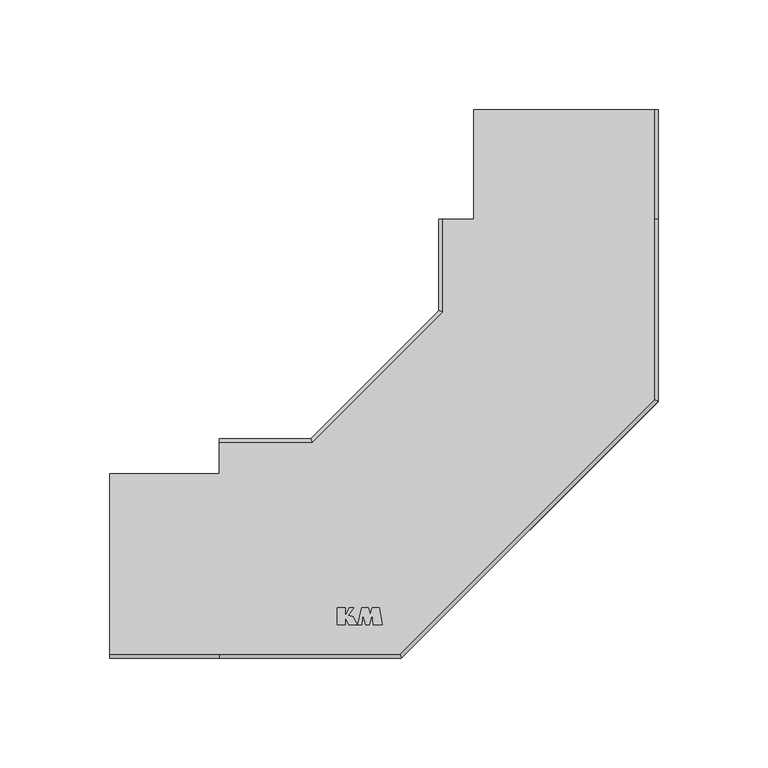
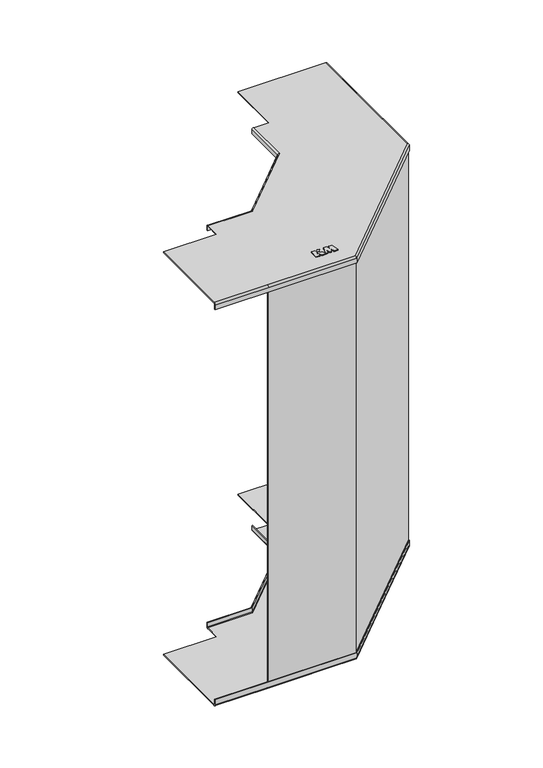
"""IFC4 building model written with IfcOpenShell, lengths in millimetres: cable carrier fitting geometry, КМ Профиль Угол вертикальный внутренний NL90 : Внутренний вертикальный угол NL90."""

import ifcopenshell
import ifcopenshell.guid

model = None  # the IFC model being written
_history = None  # IfcOwnerHistory: only IFC2X3 demands one
_inside = {}  # id of a spatial element -> (the spatial element, [elements in it])
_under = {}  # id of a project, library or spatial element -> (it, [spatial elements below it])
_declared = {}  # id of a project -> (the project, [libraries it declares])
_typed = {}  # id of a type object -> (the type object, [elements of that type])
_made_of = {}  # id of a material, layer set ... -> (it, [elements and type objects made of it])


def new_model(schema):
    """Start an empty IFC model of exactly this schema.

    Asked for "IFC4X3", IfcOpenShell would pick the latest addendum, in which some entities
    have other attributes; the version numbers below select the first issue.
    IFC2X3 requires an IfcOwnerHistory on every rooted entity: one is made here for all.
    """
    global model, _history
    if schema == "IFC4X3":
        model = ifcopenshell.file(schema_version=(4, 3, 0, 0))
    else:
        model = ifcopenshell.file(schema=schema)
    _inside.clear()
    _under.clear()
    _declared.clear()
    _typed.clear()
    _made_of.clear()
    _history = None
    if model.schema == "IFC2X3":
        org = make("IfcOrganization", Name="unknown")
        user = make(
            "IfcPersonAndOrganization",
            ThePerson=make("IfcPerson", FamilyName="unknown"),
            TheOrganization=org,
        )
        app = make(
            "IfcApplication",
            ApplicationDeveloper=org,
            Version="unknown",
            ApplicationFullName="unknown",
            ApplicationIdentifier="unknown",
        )
        _history = make(
            "IfcOwnerHistory",
            OwningUser=user,
            OwningApplication=app,
            ChangeAction="ADDED",
            CreationDate=0,
        )
    return model


def make(cls, **values):
    """One entity of the class cls with the attributes given. An attribute that is None is left unset."""
    return model.create_entity(
        cls, **{name: value for name, value in values.items() if value is not None}
    )


def rooted(cls, **values):
    """An entity with a GlobalId (a new one), such as an element, a storey or a relation."""
    return make(cls, GlobalId=ifcopenshell.guid.new(), OwnerHistory=_history, **values)


def si_unit(unit_type, name, prefix=None):
    """IfcSIUnit, for example si_unit("LENGTHUNIT", "METRE", prefix="MILLI")."""
    return make("IfcSIUnit", UnitType=unit_type, Prefix=prefix, Name=name)


def assignment(units):
    """IfcUnitAssignment: the units of a project."""
    return None if units is None else make("IfcUnitAssignment", Units=units)


def point(xyz):
    """IfcCartesianPoint."""
    return None if xyz is None else make("IfcCartesianPoint", Coordinates=xyz)


def direction(xyz):
    """IfcDirection."""
    return None if xyz is None else make("IfcDirection", DirectionRatios=xyz)


def frame(location, z_axis=None, x_axis=None):
    """IfcAxis2Placement3D, a coordinate frame: its origin and axes. An axis left out is left unset."""
    return make(
        "IfcAxis2Placement3D",
        Location=point(location),
        Axis=direction(z_axis),
        RefDirection=direction(x_axis),
    )


def origin():
    """The frame at (0, 0, 0) with its axes left unset."""
    return frame((0.0, 0.0, 0.0))


def place(relative_to, where):
    """IfcLocalPlacement: puts the frame where relative to a parent placement (None: the world)."""
    return make(
        "IfcLocalPlacement", PlacementRelTo=relative_to, RelativePlacement=where
    )


def context(
    kind, dimensions, precision=None, world=None, true_north=None, identifier=None
):
    """IfcGeometricRepresentationContext, for example the 3D "Model" context."""
    return make(
        "IfcGeometricRepresentationContext",
        ContextIdentifier=identifier,
        ContextType=kind,
        CoordinateSpaceDimension=dimensions,
        Precision=precision,
        WorldCoordinateSystem=world,
        TrueNorth=true_north,
    )


def project(units=None, contexts=None):
    """IfcProject with its units and contexts."""
    return rooted(
        "IfcProject",
        Name="project",
        RepresentationContexts=contexts,
        UnitsInContext=assignment(units),
    )


def spatial(cls, under=None, at=None, **own):
    """A site, building, storey or space (cls), placed at a placement, below another one or the project."""
    s = rooted(cls, ObjectPlacement=at, **own)
    if under is not None:
        _under.setdefault(under.id(), (under, []))[1].append(s)
    return s


def polyline(points):
    """IfcPolyline through the points."""
    return make("IfcPolyline", Points=[point(p) for p in points])


def circle_curve(where, radius):
    """IfcCircle in the frame where."""
    return make("IfcCircle", Position=where, Radius=radius)


def ellipse_curve(where, semi_axis1, semi_axis2):
    """IfcEllipse in the frame where."""
    return make(
        "IfcEllipse", Position=where, SemiAxis1=semi_axis1, SemiAxis2=semi_axis2
    )


def outline(outer, holes=None, kind="AREA"):
    """IfcArbitraryClosedProfileDef: a profile drawn as a closed curve; with holes, ...WithVoids."""
    if holes is None:
        return make("IfcArbitraryClosedProfileDef", ProfileType=kind, OuterCurve=outer)
    return make(
        "IfcArbitraryProfileDefWithVoids",
        ProfileType=kind,
        OuterCurve=outer,
        InnerCurves=holes,
    )


def extrude(swept, where, along, depth):
    """IfcExtrudedAreaSolid: the profile swept, set in the frame where, extruded along a direction by depth."""
    return make(
        "IfcExtrudedAreaSolid",
        SweptArea=swept,
        Position=where,
        ExtrudedDirection=direction(along),
        Depth=depth,
    )


def shape(context_of_items, identifier, shape_type, items):
    """IfcShapeRepresentation: the items that make up one representation, for example the "Body"."""
    return make(
        "IfcShapeRepresentation",
        ContextOfItems=context_of_items,
        RepresentationIdentifier=identifier,
        RepresentationType=shape_type,
        Items=items,
    )


def source(mapping_origin, context_of_items, identifier, shape_type, items):
    """IfcRepresentationMap: a shape defined once, which mapped items show again and again."""
    return make(
        "IfcRepresentationMap",
        MappingOrigin=mapping_origin,
        MappedRepresentation=shape(context_of_items, identifier, shape_type, items),
    )


def transform(
    local_origin,
    x_axis=None,
    y_axis=None,
    z_axis=None,
    scale=None,
    scale2=None,
    scale3=None,
    uniform=True,
):
    """IfcCartesianTransformationOperator3D, or its non-uniform kind. x_axis, y_axis, z_axis: its Axis1, 2, 3."""
    if uniform:
        return make(
            "IfcCartesianTransformationOperator3D",
            Axis1=direction(x_axis),
            Axis2=direction(y_axis),
            LocalOrigin=point(local_origin),
            Scale=scale,
            Axis3=direction(z_axis),
        )
    return make(
        "IfcCartesianTransformationOperator3DnonUniform",
        Axis1=direction(x_axis),
        Axis2=direction(y_axis),
        LocalOrigin=point(local_origin),
        Scale=scale,
        Axis3=direction(z_axis),
        Scale2=scale2,
        Scale3=scale3,
    )


def mapped(mapping_source, mapping_target):
    """IfcMappedItem: shows the shape of a source again, moved by a transform."""
    return make(
        "IfcMappedItem", MappingSource=mapping_source, MappingTarget=mapping_target
    )


def made_of(thing, what):
    """Note that an element or type object is made of a material, layer set ...; save() writes the relation."""
    if what is not None:
        _made_of.setdefault(what.id(), (what, []))[1].append(thing)
    return thing


def element(
    cls,
    number,
    at=None,
    inside=None,
    cuts=None,
    type_object=None,
    material=None,
    context=None,
    identifier="Body",
    shape_type=None,
    held_by="IfcProductDefinitionShape",
    body=None,
    shapes=None,
    **own,
):
    """One element of the class cls, such as IfcWall. Its Tag is "e" and its number.

    at: its placement. inside: the storey or other place that contains it. cuts: it is an
    opening in that element (IfcRelVoidsElement). A single representation is given by context,
    identifier, shape_type and body (its items); several are given by shapes. held_by: the class
    of the entity that holds the representations. save() writes the other relations.
    """
    e = rooted(cls, Tag="e%d" % number, ObjectPlacement=at, **own)
    if body is not None:
        shapes = [shape(context, identifier, shape_type, body)]
    if shapes is not None:
        e.Representation = make(held_by, Representations=shapes)
    if inside is not None:
        _inside.setdefault(inside.id(), (inside, []))[1].append(e)
    if cuts is not None:
        rooted(
            "IfcRelVoidsElement", RelatingBuildingElement=cuts, RelatedOpeningElement=e
        )
    if type_object is not None:
        _typed.setdefault(type_object.id(), (type_object, []))[1].append(e)
    return made_of(e, material)


def aggregate(whole, parts):
    """IfcRelAggregates: a whole, such as a stair, and the parts it consists of."""
    return rooted("IfcRelAggregates", RelatingObject=whole, RelatedObjects=parts)


def save(model, path):
    """Write the relations noted so far, then the file.

    IfcRelAggregates (storeys below a building ...), IfcRelContainedInSpatialStructure (elements
    in a storey), IfcRelDefinesByType, IfcRelAssociatesMaterial and IfcRelDeclares: one each for
    every whole, place, type object, material and project.
    """
    for whole, parts in _under.values():
        aggregate(whole, parts)
    for where, things in _inside.values():
        rooted(
            "IfcRelContainedInSpatialStructure",
            RelatedElements=things,
            RelatingStructure=where,
        )
    for kind, things in _typed.values():
        rooted("IfcRelDefinesByType", RelatedObjects=things, RelatingType=kind)
    for what, things in _made_of.values():
        rooted("IfcRelAssociatesMaterial", RelatedObjects=things, RelatingMaterial=what)
    for by, libraries in _declared.values():
        rooted("IfcRelDeclares", RelatingContext=by, RelatedDefinitions=libraries)
    model.write(path)


def plane_surface(at):
    """IfcPlane: the flat surface through the origin of the frame at, square to its z axis."""
    return make("IfcPlane", Position=at)


def cylinder_surface(at, radius):
    """IfcCylindricalSurface: all points at the distance radius from the z axis of the frame at."""
    return make("IfcCylindricalSurface", Position=at, Radius=radius)


def revolved_surface(curve, axis_point, axis_direction):
    """IfcSurfaceOfRevolution: the curve turned about the line through axis_point along axis_direction."""
    return make(
        "IfcSurfaceOfRevolution",
        SweptCurve=make("IfcArbitraryOpenProfileDef", ProfileType="CURVE", Curve=curve),
        AxisPosition=make("IfcAxis1Placement", Location=point(axis_point), Axis=direction(axis_direction)),
    )


def advanced_brep(points, edges, surfaces, faces):
    """IfcAdvancedBrep: a solid bounded by faces that lie on surfaces and meet in shared edges.

    An edge is (start, end): straight between two places in points (the first is 0);
    or (start, end, curve); or (start, end, curve, False) where it runs against its curve.
    A face is (place in surfaces, loops), or (place, loops, False) where it looks against
    its surface's normal. A loop lists edges by number (the first is 1), with a minus sign
    where the edge is run from its end to its start. The first loop is the outer one.
    """
    corners = [point(p) for p in points]
    vertices = [make("IfcVertexPoint", VertexGeometry=c) for c in corners]
    made = []
    for start, end, *more in edges:
        made.append(
            make(
                "IfcEdgeCurve",
                EdgeStart=vertices[start],
                EdgeEnd=vertices[end],
                EdgeGeometry=more[0] if more else make("IfcPolyline", Points=[corners[start], corners[end]]),
                SameSense=more[1] if len(more) > 1 else True,
            )
        )
    hull = []
    for where, loops, *sense in faces:
        bounds = []
        for j, loop in enumerate(loops):
            ring = [make("IfcOrientedEdge", EdgeElement=made[abs(k) - 1], Orientation=k > 0) for k in loop]
            bounds.append(
                make(
                    "IfcFaceOuterBound" if j == 0 else "IfcFaceBound",
                    Bound=make("IfcEdgeLoop", EdgeList=ring),
                    Orientation=True,
                )
            )
        hull.append(make("IfcAdvancedFace", Bounds=bounds, FaceSurface=surfaces[where], SameSense=sense[0] if sense else True))
    return make("IfcAdvancedBrep", Outer=make("IfcClosedShell", CfsFaces=hull))


def cable_carrier_fitting_81b0173d(model_context):
    return source(origin(), model_context, "Body", "SolidModel", [
        extrude(outline(polyline([(-96.2388781, -26.986157), (-92.7316192, -26.986157), (-92.7316192, -30.564509), (-90.8289757, -26.986157), (-88.703011, -26.986157), (-91.1694955, -30.5086619), (-88.9277444, -31.194034), (-87.0604353, -34.737421), (-90.9588467, -34.737421), (-92.6630512, -31.5720802), (-92.6630512, -34.737421), (-96.2388781, -34.737421), (-96.2388781, -26.986157)])), frame((0.0, 0.0, 200.0), z_axis=(0.0, 0.0, 1.0), x_axis=(1.0, 0.0, 0.0)), (0.0, 0.0, 1.0), 0.8),
        extrude(outline(polyline([(-84.9962759, -34.737421), (-86.8943395, -34.737421), (-85.0740589, -26.9647569), (-82.0433304, -26.9647569), (-81.2768297, -30.0390232), (-80.2555223, -26.9623682), (-77.0615674, -26.9623682), (-75.8700699, -34.7429915), (-79.7725105, -34.7429915), (-80.2500032, -30.0541919), (-81.7300717, -34.7434681), (-83.2045824, -34.7434681), (-84.6126012, -30.0696135), (-84.9962759, -34.737421)])), frame((0.0, 0.0, 200.0), z_axis=(0.0, 0.0, 1.0), x_axis=(1.0, 0.0, 0.0)), (0.0, 0.0, 1.0), 0.8),
        advanced_brep(
        [(-200.0, -48.4, 199.2), (-200.0, -49.2, 198.4), (-200.0, -49.2, 193.5), (-200.0, -50.0, 193.5), (-200.0, -50.0, 198.2), (-200.0, -48.2, 200.0), (-200.0, 34.0, 200.0), (-200.0, 34.0, 199.2), (-150.0, -48.2, 200.0), (-67.7455844, -48.2, 200.0), (48.2, 67.7455844, 200.0), (48.2, 150.0, 200.0), (48.2, 200.0, 200.0), (-34.0, 200.0, 200.0), (-34.0, 150.0, 200.0), (-48.2, 150.0, 200.0), (-48.2, 107.6757718, 200.0), (-107.6757718, 48.2, 200.0), (-150.0, 48.2, 200.0), (-150.0, 34.0, 200.0), (-150.0, 50.0, 198.2), (-108.4213562, 50.0, 198.2), (-108.4213562, 50.0, 194.5), (-150.0, 50.0, 194.5), (-67.3313708, -49.2, 193.5), (49.2, 67.3313708, 193.5), (49.2, 200.0, 193.5), (50.0, 200.0, 193.5), (50.0, 67.0, 193.5), (-67.0, -50.0, 193.5), (-67.0, -50.0, 198.2), (-150.0, -50.0, 198.2), (-50.0, 108.4213562, 198.2), (-50.0, 108.4213562, 194.5), (50.0, 67.0, 198.2), (-50.0, 150.0, 198.2), (-50.0, 150.0, 194.5), (50.0, 200.0, 198.2), (50.0, 150.0, 198.2), (49.2, 200.0, 198.4), (48.4, 200.0, 199.2), (-34.0, 200.0, 199.2), (-49.2, 150.0, 194.5), (-49.2, 108.0899854, 194.5), (-108.0899854, 49.2, 194.5), (-150.0, 49.2, 194.5), (-108.0899854, 49.2, 198.4), (-150.0, 49.2, 198.4), (-150.0, 48.4, 199.2), (-107.7586145, 48.4, 199.2), (-48.4, 107.7586145, 199.2), (-48.4, 150.0, 199.2), (-34.0, 150.0, 199.2), (48.4, 150.0, 199.2), (48.4, 67.6627417, 199.2), (-67.6627417, -48.4, 199.2), (-150.0, -48.4, 199.2), (-150.0, 34.0, 199.2), (-150.0, -49.2, 198.4), (-67.3313708, -49.2, 198.4), (-49.2, 108.0899854, 198.4), (49.2, 67.3313708, 198.4), (-49.2, 150.0, 198.4), (49.2, 150.0, 198.4)],
        [
            (0, 1, circle_curve(frame((-200.0, -48.4, 198.4), z_axis=(1.0, 0.0, 0.0), x_axis=(0.0, 1.0, 0.0)), 0.8)),
            (1, 2),
            (2, 3),
            (3, 4),
            (4, 5, circle_curve(frame((-200.0, -48.2, 198.2), z_axis=(-1.0, 0.0, 0.0), x_axis=(0.0, 1.0, 0.0)), 1.8)),
            (5, 6),
            (6, 7),
            (7, 0),
            (5, 8),
            (8, 9),
            (9, 10),
            (10, 11),
            (11, 12),
            (12, 13),
            (13, 14),
            (14, 15),
            (15, 16),
            (16, 17),
            (17, 18),
            (18, 19),
            (19, 6),
            (20, 21),
            (21, 22),
            (22, 23),
            (23, 20),
            (2, 24),
            (24, 25),
            (25, 26),
            (26, 27),
            (27, 28),
            (28, 29),
            (29, 3),
            (29, 30),
            (30, 31),
            (31, 4),
            (21, 32),
            (32, 33),
            (33, 22),
            (28, 34),
            (34, 30),
            (32, 35),
            (35, 36),
            (36, 33),
            (27, 37),
            (37, 38),
            (38, 34),
            (26, 39),
            (39, 40, circle_curve(frame((48.4, 200.0, 198.4), z_axis=(0.0, -1.0, 0.0), x_axis=(-1.0, 0.0, 0.0)), 0.8)),
            (40, 41),
            (41, 13),
            (12, 37, circle_curve(frame((48.2, 200.0, 198.2), z_axis=(0.0, 1.0, 0.0), x_axis=(-1.0, 0.0, 0.0)), 1.8)),
            (36, 42),
            (42, 43),
            (43, 44),
            (44, 45),
            (45, 23),
            (44, 46),
            (46, 47),
            (47, 45),
            (48, 49),
            (49, 50),
            (50, 51),
            (51, 52),
            (52, 41),
            (40, 53),
            (53, 54),
            (54, 55),
            (55, 56),
            (56, 0),
            (7, 57),
            (57, 48),
            (1, 58),
            (58, 59),
            (59, 24),
            (43, 60),
            (60, 46),
            (59, 61),
            (61, 25),
            (42, 62),
            (62, 60),
            (61, 63),
            (63, 39),
            (56, 58, circle_curve(frame((-150.0, -48.4, 198.4), z_axis=(1.0, 0.0, 0.0), x_axis=(0.0, 1.0, 0.0)), 0.8)),
            (31, 8, circle_curve(frame((-150.0, -48.2, 198.2), z_axis=(-1.0, 0.0, 0.0), x_axis=(0.0, 1.0, 0.0)), 1.8)),
            (17, 21, ellipse_curve(frame((-107.6757718, 48.2, 198.2), z_axis=(-0.9238795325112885, -0.3826834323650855, 0.0), x_axis=(-0.3826834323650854, 0.9238795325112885, 0.0)), 1.948306, 1.8)),
            (20, 18, circle_curve(frame((-150.0, 48.2, 198.2), z_axis=(1.0, 0.0, 0.0), x_axis=(0.0, 1.0, 0.0)), 1.8)),
            (46, 49, ellipse_curve(frame((-107.7586145, 48.4, 198.4), z_axis=(0.9238795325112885, 0.3826834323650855, 0.0), x_axis=(0.3826834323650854, -0.9238795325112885, 0.0)), 0.8659138, 0.8)),
            (48, 47, circle_curve(frame((-150.0, 48.4, 198.4), z_axis=(-1.0, 0.0, 0.0), x_axis=(0.0, 1.0, 0.0)), 0.8)),
            (55, 59, ellipse_curve(frame((-67.6627417, -48.4, 198.4), z_axis=(0.9238795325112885, 0.3826834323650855, 0.0), x_axis=(0.3826834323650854, -0.9238795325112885, 0.0)), 0.8659138, 0.8)),
            (30, 9, ellipse_curve(frame((-67.7455844, -48.2, 198.2), z_axis=(-0.9238795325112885, -0.3826834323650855, 0.0), x_axis=(-0.3826834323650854, 0.9238795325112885, 0.0)), 1.948306, 1.8)),
            (16, 32, ellipse_curve(frame((-48.2, 107.6757718, 198.2), z_axis=(-0.38268343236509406, -0.923879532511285, 0.0), x_axis=(-0.9238795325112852, 0.3826834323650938, 0.0)), 1.948306, 1.8)),
            (60, 50, ellipse_curve(frame((-48.4, 107.7586145, 198.4), z_axis=(0.38268343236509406, 0.923879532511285, 0.0), x_axis=(0.9238795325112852, -0.3826834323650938, 0.0)), 0.8659138, 0.8)),
            (54, 61, ellipse_curve(frame((48.4, 67.6627417, 198.4), z_axis=(0.38268343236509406, 0.923879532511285, 0.0), x_axis=(0.9238795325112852, -0.3826834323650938, 0.0)), 0.8659138, 0.8)),
            (34, 10, ellipse_curve(frame((48.2, 67.7455844, 198.2), z_axis=(-0.38268343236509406, -0.923879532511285, 0.0), x_axis=(-0.9238795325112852, 0.3826834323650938, 0.0)), 1.948306, 1.8)),
            (15, 35, circle_curve(frame((-48.2, 150.0, 198.2), z_axis=(0.0, -1.0, 0.0), x_axis=(-1.0, 0.0, 0.0)), 1.8)),
            (62, 51, circle_curve(frame((-48.4, 150.0, 198.4), z_axis=(0.0, 1.0, 0.0), x_axis=(-1.0, 0.0, 0.0)), 0.8)),
            (53, 63, circle_curve(frame((48.4, 150.0, 198.4), z_axis=(0.0, 1.0, 0.0), x_axis=(-1.0, 0.0, 0.0)), 0.8)),
            (38, 11, circle_curve(frame((48.2, 150.0, 198.2), z_axis=(0.0, -1.0, 0.0), x_axis=(-1.0, 0.0, 0.0)), 1.8)),
            (19, 57),
            (14, 52),
        ],
        [
            plane_surface(frame((-200.0, 0.0, 0.0), z_axis=(-1.0, 0.0, 0.0), x_axis=(0.0, 0.0, 1.0))),
            plane_surface(frame((-200.0, -48.2, 200.0), z_axis=(0.0, 0.0, 1.0), x_axis=(1.0, 0.0, 0.0))),
            plane_surface(frame((-200.0, 50.0, 198.2), z_axis=(0.0, 1.0, 0.0), x_axis=(1.0, 0.0, 0.0))),
            plane_surface(frame((-200.0, -49.2, 193.5), z_axis=(0.0, 0.0, -1.0), x_axis=(1.0, 0.0, 0.0))),
            plane_surface(frame((-200.0, -50.0, 193.5), z_axis=(0.0, -1.0, 0.0), x_axis=(1.0, 0.0, 0.0))),
            plane_surface(frame((-108.4213562, 50.0, 198.2), z_axis=(-0.7071067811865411, 0.7071067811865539, 0.0), x_axis=(0.7071067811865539, 0.7071067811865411, 0.0))),
            plane_surface(frame((-67.0, -50.0, 193.5), z_axis=(0.707106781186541, -0.707106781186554, 0.0), x_axis=(0.707106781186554, 0.707106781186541, 0.0))),
            plane_surface(frame((-50.0, 108.4213562, 198.2), z_axis=(-1.0, 0.0, 0.0), x_axis=(0.0, 1.0, 0.0))),
            plane_surface(frame((50.0, 67.0, 193.5), z_axis=(1.0, 0.0, 0.0), x_axis=(0.0, 1.0, 0.0))),
            plane_surface(frame((0.0, 200.0, 0.0), z_axis=(0.0, 1.0, 0.0), x_axis=(0.0, 0.0, 1.0))),
            plane_surface(frame((-200.0, 50.0, 194.5), z_axis=(0.0, 0.0, -1.0), x_axis=(1.0, 0.0, 0.0))),
            plane_surface(frame((-200.0, 49.2, 194.5), z_axis=(0.0, -1.0, 0.0), x_axis=(1.0, 0.0, 0.0))),
            plane_surface(frame((-200.0, 48.4, 199.2), z_axis=(0.0, 0.0, -1.0), x_axis=(1.0, 0.0, 0.0))),
            plane_surface(frame((-200.0, -49.2, 198.4), z_axis=(0.0, 1.0, 0.0), x_axis=(1.0, 0.0, 0.0))),
            plane_surface(frame((-108.0899854, 49.2, 194.5), z_axis=(0.707106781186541, -0.707106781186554, 0.0), x_axis=(0.707106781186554, 0.707106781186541, 0.0))),
            plane_surface(frame((-67.3313708, -49.2, 198.4), z_axis=(-0.707106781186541, 0.707106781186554, 0.0), x_axis=(0.707106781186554, 0.707106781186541, 0.0))),
            plane_surface(frame((-49.2, 108.0899854, 194.5), z_axis=(1.0, 0.0, 0.0), x_axis=(0.0, 1.0, 0.0))),
            plane_surface(frame((49.2, 67.3313708, 198.4), z_axis=(-1.0, 0.0, 0.0), x_axis=(0.0, 1.0, 0.0))),
            revolved_surface(polyline([(-150.0, -47.6, 198.4), (-200.0, -47.6, 198.4)]), (-200.0, -48.4, 198.4), (1.0, 0.0, 0.0)),
            cylinder_surface(frame((-200.0, -48.2, 198.2), z_axis=(-1.0, 0.0, 0.0), x_axis=(0.0, 1.0, 0.0)), 1.8),
            cylinder_surface(frame((-150.0, 48.2, 198.2), z_axis=(-1.0, 0.0, 0.0), x_axis=(0.0, 1.0, 0.0)), 1.8),
            revolved_surface(polyline([(-107.4272436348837, 49.199999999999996, 198.4), (-150.0, 49.199999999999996, 198.4)]), (-150.0, 48.4, 198.4), (1.0, 0.0, 0.0)),
            revolved_surface(polyline([(-67.3313708, -47.6, 198.4), (-150.0, -47.6, 198.4)]), (-150.0, -48.4, 198.4), (1.0, 0.0, 0.0)),
            cylinder_surface(frame((-150.0, -48.2, 198.2), z_axis=(-1.0, 0.0, 0.0), x_axis=(0.0, 1.0, 0.0)), 1.8),
            cylinder_surface(frame((-121.793225, 34.0825469, 198.2), z_axis=(-0.7071067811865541, -0.707106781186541, 0.0), x_axis=(-0.707106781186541, 0.7071067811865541, 0.0)), 1.8),
            revolved_surface(polyline([(-48.73137083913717, 108.55861451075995, 198.4), (-108.55861451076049, 48.73137083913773, 198.4)]), (-121.9346463, 34.2239682, 198.4), (0.7071067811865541, 0.707106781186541, 0.0)),
            revolved_surface(polyline([(48.06862916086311, 68.4627417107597, 198.4), (-68.46274171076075, -48.06862916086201, 198.4)]), (-53.4867099, -34.2239682, 198.4), (0.7071067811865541, 0.707106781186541, 0.0)),
            cylinder_surface(frame((-53.6281313, -34.0825469, 198.2), z_axis=(-0.7071067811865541, -0.707106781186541, 0.0), x_axis=(-0.707106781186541, 0.7071067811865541, 0.0)), 1.8),
            cylinder_surface(frame((-48.2, 87.7106781, 198.2), z_axis=(0.0, -1.0, 0.0), x_axis=(-1.0, 0.0, 0.0)), 1.8),
            revolved_surface(polyline([(-49.199999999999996, 150.0, 198.4), (-49.199999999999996, 107.4272436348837, 198.4)]), (-48.4, 87.7106781, 198.4), (0.0, 1.0, 0.0)),
            revolved_surface(polyline([(47.6, 150.0, 198.4), (47.6, 67.3313708, 198.4)]), (48.4, 87.7106781, 198.4), (0.0, 1.0, 0.0)),
            cylinder_surface(frame((48.2, 87.7106781, 198.2), z_axis=(0.0, -1.0, 0.0), x_axis=(-1.0, 0.0, 0.0)), 1.8),
            revolved_surface(polyline([(47.6, 200.0, 198.4), (47.6, 150.0, 198.4)]), (48.4, 150.0, 198.4), (0.0, 1.0, 0.0)),
            cylinder_surface(frame((48.2, 150.0, 198.2), z_axis=(0.0, -1.0, 0.0), x_axis=(-1.0, 0.0, 0.0)), 1.8),
            plane_surface(frame((-200.0, 34.0, 200.0), z_axis=(0.0, 1.0, 0.0), x_axis=(0.0, 0.0, -1.0))),
            plane_surface(frame((-150.0, 34.0, 200.0), z_axis=(-1.0, 0.0, 0.0), x_axis=(0.0, 0.0, -1.0))),
            plane_surface(frame((-50.0, 150.0, 200.0), z_axis=(0.0, 1.0, 0.0), x_axis=(0.0, 0.0, -1.0))),
            plane_surface(frame((-34.0, 150.0, 200.0), z_axis=(-1.0, 0.0, 0.0), x_axis=(0.0, 0.0, -1.0))),
        ],
        [
            (0, [[1, 2, 3, 4, 5, 6, 7, 8]]),
            (1, [[9, 10, 11, 12, 13, 14, 15, 16, 17, 18, 19, 20, 21, -6]]),
            (2, [[22, 23, 24, 25]]),
            (3, [[-3, 26, 27, 28, 29, 30, 31, 32]]),
            (4, [[-4, -32, 33, 34, 35]]),
            (5, [[-23, 36, 37, 38]]),
            (6, [[-31, 39, 40, -33]]),
            (7, [[-37, 41, 42, 43]]),
            (8, [[-30, 44, 45, 46, -39]]),
            (9, [[-29, 47, 48, 49, 50, -14, 51, -44]]),
            (10, [[-38, -43, 52, 53, 54, 55, 56, -24]]),
            (11, [[57, 58, 59, -55]]),
            (12, [[60, 61, 62, 63, 64, -49, 65, 66, 67, 68, 69, -8, 70, 71]]),
            (13, [[-2, 72, 73, 74, -26]]),
            (14, [[-54, 75, 76, -57]]),
            (15, [[-27, -74, 77, 78]]),
            (16, [[-75, -53, 79, 80]]),
            (17, [[-28, -78, 81, 82, -47]]),
            (18, [[-1, -69, 83, -72]]),
            (19, [[-5, -35, 84, -9]]),
            (20, [[-19, 85, -22, 86]]),
            (21, [[-58, 87, -60, 88]]),
            (22, [[-68, 89, -73, -83]]),
            (23, [[-10, -84, -34, 90]]),
            (24, [[-18, 91, -36, -85]]),
            (25, [[-61, -87, -76, 92]]),
            (26, [[-67, 93, -77, -89]]),
            (27, [[-11, -90, -40, 94]]),
            (28, [[-17, 95, -41, -91]]),
            (29, [[-62, -92, -80, 96]]),
            (30, [[-66, 97, -81, -93]]),
            (31, [[-12, -94, -46, 98]]),
            (32, [[-48, -82, -97, -65]]),
            (33, [[-13, -98, -45, -51]]),
            (34, [[99, -70, -7, -21]]),
            (35, [[-99, -20, -86, -25, -56, -59, -88, -71]]),
            (36, [[100, -63, -96, -79, -52, -42, -95, -16]]),
            (37, [[-100, -15, -50, -64]]),
        ],
    ),
        advanced_brep(
        [(-200.0, -48.2, -200.0), (-200.0, -50.0, -198.2), (-200.0, -50.0, -193.5), (-200.0, -49.2, -193.5), (-200.0, -49.2, -198.4), (-200.0, -48.4, -199.2), (-200.0, 34.0, -199.2), (-200.0, 34.0, -200.0), (-108.0899854, 49.2, -194.5), (-49.2, 108.0899854, -194.5), (-49.2, 150.0, -194.5), (-50.0, 150.0, -194.5), (-50.0, 108.4213562, -194.5), (-108.4213562, 50.0, -194.5), (-150.0, 50.0, -194.5), (-150.0, 49.2, -194.5), (-108.4213562, 50.0, -198.2), (-150.0, 50.0, -198.2), (-150.0, 48.2, -200.0), (-107.6757718, 48.2, -200.0), (-48.2, 107.6757718, -200.0), (-48.2, 150.0, -200.0), (-34.0, 150.0, -200.0), (-34.0, 200.0, -200.0), (48.2, 200.0, -200.0), (48.2, 150.0, -200.0), (48.2, 67.7455844, -200.0), (-67.7455844, -48.2, -200.0), (-150.0, -48.2, -200.0), (-150.0, 34.0, -200.0), (-150.0, -50.0, -198.2), (-67.0, -50.0, -198.2), (-67.0, -50.0, -193.5), (-50.0, 108.4213562, -198.2), (50.0, 67.0, -198.2), (50.0, 67.0, -193.5), (-50.0, 150.0, -198.2), (50.0, 150.0, -198.2), (50.0, 200.0, -198.2), (50.0, 200.0, -193.5), (-34.0, 200.0, -199.2), (48.4, 200.0, -199.2), (49.2, 200.0, -198.4), (49.2, 200.0, -193.5), (49.2, 67.3313708, -193.5), (-67.3313708, -49.2, -193.5), (-67.3313708, -49.2, -198.4), (-150.0, -49.2, -198.4), (-150.0, -48.4, -199.2), (-67.6627417, -48.4, -199.2), (48.4, 67.6627417, -199.2), (48.4, 150.0, -199.2), (-34.0, 150.0, -199.2), (-48.4, 150.0, -199.2), (-48.4, 107.7586145, -199.2), (-107.7586145, 48.4, -199.2), (-150.0, 48.4, -199.2), (-150.0, 34.0, -199.2), (-150.0, 49.2, -198.4), (-108.0899854, 49.2, -198.4), (49.2, 67.3313708, -198.4), (-49.2, 108.0899854, -198.4), (49.2, 150.0, -198.4), (-49.2, 150.0, -198.4)],
        [
            (0, 1, circle_curve(frame((-200.0, -48.2, -198.2), z_axis=(-1.0, 0.0, 0.0), x_axis=(0.0, 1.0, 0.0)), 1.8)),
            (1, 2),
            (2, 3),
            (3, 4),
            (4, 5, circle_curve(frame((-200.0, -48.4, -198.4), z_axis=(1.0, 0.0, 0.0), x_axis=(0.0, 1.0, 0.0)), 0.8)),
            (5, 6),
            (6, 7),
            (7, 0),
            (8, 9),
            (9, 10),
            (10, 11),
            (11, 12),
            (12, 13),
            (13, 14),
            (14, 15),
            (15, 8),
            (13, 16),
            (16, 17),
            (17, 14),
            (18, 19),
            (19, 20),
            (20, 21),
            (21, 22),
            (22, 23),
            (23, 24),
            (24, 25),
            (25, 26),
            (26, 27),
            (27, 28),
            (28, 0),
            (7, 29),
            (29, 18),
            (1, 30),
            (30, 31),
            (31, 32),
            (32, 2),
            (12, 33),
            (33, 16),
            (31, 34),
            (34, 35),
            (35, 32),
            (11, 36),
            (36, 33),
            (34, 37),
            (37, 38),
            (38, 39),
            (39, 35),
            (38, 24, circle_curve(frame((48.2, 200.0, -198.2), z_axis=(0.0, 1.0, 0.0), x_axis=(-1.0, 0.0, 0.0)), 1.8)),
            (23, 40),
            (40, 41),
            (41, 42, circle_curve(frame((48.4, 200.0, -198.4), z_axis=(0.0, -1.0, 0.0), x_axis=(-1.0, 0.0, 0.0)), 0.8)),
            (42, 43),
            (43, 39),
            (43, 44),
            (44, 45),
            (45, 3),
            (45, 46),
            (46, 47),
            (47, 4),
            (5, 48),
            (48, 49),
            (49, 50),
            (50, 51),
            (51, 41),
            (40, 52),
            (52, 53),
            (53, 54),
            (54, 55),
            (55, 56),
            (56, 57),
            (57, 6),
            (58, 59),
            (59, 8),
            (15, 58),
            (44, 60),
            (60, 46),
            (59, 61),
            (61, 9),
            (42, 62),
            (62, 60),
            (61, 63),
            (63, 10),
            (28, 30, circle_curve(frame((-150.0, -48.2, -198.2), z_axis=(-1.0, 0.0, 0.0), x_axis=(0.0, 1.0, 0.0)), 1.8)),
            (47, 48, circle_curve(frame((-150.0, -48.4, -198.4), z_axis=(1.0, 0.0, 0.0), x_axis=(0.0, 1.0, 0.0)), 0.8)),
            (16, 19, ellipse_curve(frame((-107.6757718, 48.2, -198.2), z_axis=(-0.9238795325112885, -0.3826834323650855, 0.0), x_axis=(-0.3826834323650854, 0.9238795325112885, 0.0)), 1.948306, 1.8)),
            (18, 17, circle_curve(frame((-150.0, 48.2, -198.2), z_axis=(1.0, 0.0, 0.0), x_axis=(0.0, 1.0, 0.0)), 1.8)),
            (27, 31, ellipse_curve(frame((-67.7455844, -48.2, -198.2), z_axis=(-0.9238795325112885, -0.3826834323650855, 0.0), x_axis=(-0.3826834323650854, 0.9238795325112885, 0.0)), 1.948306, 1.8)),
            (46, 49, ellipse_curve(frame((-67.6627417, -48.4, -198.4), z_axis=(0.9238795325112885, 0.3826834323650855, 0.0), x_axis=(0.3826834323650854, -0.9238795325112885, 0.0)), 0.8659138, 0.8)),
            (55, 59, ellipse_curve(frame((-107.7586145, 48.4, -198.4), z_axis=(0.9238795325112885, 0.3826834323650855, 0.0), x_axis=(0.3826834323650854, -0.9238795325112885, 0.0)), 0.8659138, 0.8)),
            (58, 56, circle_curve(frame((-150.0, 48.4, -198.4), z_axis=(-1.0, 0.0, 0.0), x_axis=(0.0, 1.0, 0.0)), 0.8)),
            (33, 20, ellipse_curve(frame((-48.2, 107.6757718, -198.2), z_axis=(-0.38268343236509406, -0.923879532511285, 0.0), x_axis=(-0.9238795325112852, 0.3826834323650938, 0.0)), 1.948306, 1.8)),
            (26, 34, ellipse_curve(frame((48.2, 67.7455844, -198.2), z_axis=(-0.38268343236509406, -0.923879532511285, 0.0), x_axis=(-0.9238795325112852, 0.3826834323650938, 0.0)), 1.948306, 1.8)),
            (60, 50, ellipse_curve(frame((48.4, 67.6627417, -198.4), z_axis=(0.38268343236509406, 0.923879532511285, 0.0), x_axis=(0.9238795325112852, -0.3826834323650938, 0.0)), 0.8659138, 0.8)),
            (54, 61, ellipse_curve(frame((-48.4, 107.7586145, -198.4), z_axis=(0.38268343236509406, 0.923879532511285, 0.0), x_axis=(0.9238795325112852, -0.3826834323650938, 0.0)), 0.8659138, 0.8)),
            (36, 21, circle_curve(frame((-48.2, 150.0, -198.2), z_axis=(0.0, -1.0, 0.0), x_axis=(-1.0, 0.0, 0.0)), 1.8)),
            (25, 37, circle_curve(frame((48.2, 150.0, -198.2), z_axis=(0.0, -1.0, 0.0), x_axis=(-1.0, 0.0, 0.0)), 1.8)),
            (62, 51, circle_curve(frame((48.4, 150.0, -198.4), z_axis=(0.0, 1.0, 0.0), x_axis=(-1.0, 0.0, 0.0)), 0.8)),
            (53, 63, circle_curve(frame((-48.4, 150.0, -198.4), z_axis=(0.0, 1.0, 0.0), x_axis=(-1.0, 0.0, 0.0)), 0.8)),
            (57, 29),
            (52, 22),
        ],
        [
            plane_surface(frame((-200.0, 0.0, 0.0), z_axis=(-1.0, 0.0, 0.0), x_axis=(0.0, 0.0, 1.0))),
            plane_surface(frame((-200.0, 49.2, -194.5), z_axis=(0.0, 0.0, 1.0), x_axis=(1.0, 0.0, 0.0))),
            plane_surface(frame((-200.0, 50.0, -194.5), z_axis=(0.0, 1.0, 0.0), x_axis=(1.0, 0.0, 0.0))),
            plane_surface(frame((-200.0, 48.2, -200.0), z_axis=(0.0, 0.0, -1.0), x_axis=(1.0, 0.0, 0.0))),
            plane_surface(frame((-200.0, -50.0, -198.2), z_axis=(0.0, -1.0, 0.0), x_axis=(1.0, 0.0, 0.0))),
            plane_surface(frame((-108.4213562, 50.0, -194.5), z_axis=(-0.7071067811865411, 0.7071067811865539, 0.0), x_axis=(0.7071067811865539, 0.7071067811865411, 0.0))),
            plane_surface(frame((-67.0, -50.0, -198.2), z_axis=(0.707106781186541, -0.707106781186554, 0.0), x_axis=(0.707106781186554, 0.707106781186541, 0.0))),
            plane_surface(frame((-50.0, 108.4213562, -194.5), z_axis=(-1.0, 0.0, 0.0), x_axis=(0.0, 1.0, 0.0))),
            plane_surface(frame((50.0, 67.0, -198.2), z_axis=(1.0, 0.0, 0.0), x_axis=(0.0, 1.0, 0.0))),
            plane_surface(frame((0.0, 200.0, 0.0), z_axis=(0.0, 1.0, 0.0), x_axis=(0.0, 0.0, 1.0))),
            plane_surface(frame((-200.0, -50.0, -193.5), z_axis=(0.0, 0.0, 1.0), x_axis=(1.0, 0.0, 0.0))),
            plane_surface(frame((-200.0, -49.2, -193.5), z_axis=(0.0, 1.0, 0.0), x_axis=(1.0, 0.0, 0.0))),
            plane_surface(frame((-200.0, -48.4, -199.2), z_axis=(0.0, 0.0, 1.0), x_axis=(1.0, 0.0, 0.0))),
            plane_surface(frame((-200.0, 49.2, -198.4), z_axis=(0.0, -1.0, 0.0), x_axis=(1.0, 0.0, 0.0))),
            plane_surface(frame((-67.3313708, -49.2, -193.5), z_axis=(-0.707106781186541, 0.707106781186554, 0.0), x_axis=(0.707106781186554, 0.707106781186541, 0.0))),
            plane_surface(frame((-108.0899854, 49.2, -198.4), z_axis=(0.707106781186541, -0.707106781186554, 0.0), x_axis=(0.707106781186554, 0.707106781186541, 0.0))),
            plane_surface(frame((49.2, 67.3313708, -193.5), z_axis=(-1.0, 0.0, 0.0), x_axis=(0.0, 1.0, 0.0))),
            plane_surface(frame((-49.2, 108.0899854, -198.4), z_axis=(1.0, 0.0, 0.0), x_axis=(0.0, 1.0, 0.0))),
            cylinder_surface(frame((-200.0, -48.2, -198.2), z_axis=(-1.0, 0.0, 0.0), x_axis=(0.0, 1.0, 0.0)), 1.8),
            revolved_surface(polyline([(-150.0, -47.6, -198.4), (-200.0, -47.6, -198.4)]), (-200.0, -48.4, -198.4), (1.0, 0.0, 0.0)),
            cylinder_surface(frame((-150.0, 48.2, -198.2), z_axis=(-1.0, 0.0, 0.0), x_axis=(0.0, 1.0, 0.0)), 1.8),
            cylinder_surface(frame((-150.0, -48.2, -198.2), z_axis=(-1.0, 0.0, 0.0), x_axis=(0.0, 1.0, 0.0)), 1.8),
            revolved_surface(polyline([(-67.3313708, -47.6, -198.4), (-150.0, -47.6, -198.4)]), (-150.0, -48.4, -198.4), (1.0, 0.0, 0.0)),
            revolved_surface(polyline([(-107.4272436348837, 49.199999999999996, -198.4), (-150.0, 49.199999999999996, -198.4)]), (-150.0, 48.4, -198.4), (1.0, 0.0, 0.0)),
            cylinder_surface(frame((-121.793225, 34.0825469, -198.2), z_axis=(-0.7071067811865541, -0.707106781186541, 0.0), x_axis=(-0.707106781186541, 0.7071067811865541, 0.0)), 1.8),
            cylinder_surface(frame((-53.6281313, -34.0825469, -198.2), z_axis=(-0.7071067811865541, -0.707106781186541, 0.0), x_axis=(-0.707106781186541, 0.7071067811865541, 0.0)), 1.8),
            revolved_surface(polyline([(48.06862916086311, 68.4627417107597, -198.4), (-68.46274171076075, -48.06862916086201, -198.4)]), (-53.4867099, -34.2239682, -198.4), (0.7071067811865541, 0.707106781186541, 0.0)),
            revolved_surface(polyline([(-48.73137083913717, 108.55861451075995, -198.4), (-108.55861451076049, 48.73137083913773, -198.4)]), (-121.9346463, 34.2239682, -198.4), (0.7071067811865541, 0.707106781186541, 0.0)),
            cylinder_surface(frame((-48.2, 87.7106781, -198.2), z_axis=(0.0, -1.0, 0.0), x_axis=(-1.0, 0.0, 0.0)), 1.8),
            cylinder_surface(frame((48.2, 87.7106781, -198.2), z_axis=(0.0, -1.0, 0.0), x_axis=(-1.0, 0.0, 0.0)), 1.8),
            revolved_surface(polyline([(47.6, 150.0, -198.4), (47.6, 67.3313708, -198.4)]), (48.4, 87.7106781, -198.4), (0.0, 1.0, 0.0)),
            revolved_surface(polyline([(-49.199999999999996, 150.0, -198.4), (-49.199999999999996, 107.4272436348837, -198.4)]), (-48.4, 87.7106781, -198.4), (0.0, 1.0, 0.0)),
            cylinder_surface(frame((48.2, 150.0, -198.2), z_axis=(0.0, -1.0, 0.0), x_axis=(-1.0, 0.0, 0.0)), 1.8),
            revolved_surface(polyline([(47.6, 200.0, -198.4), (47.6, 150.0, -198.4)]), (48.4, 150.0, -198.4), (0.0, 1.0, 0.0)),
            plane_surface(frame((-200.0, 34.0, 200.0), z_axis=(0.0, 1.0, 0.0), x_axis=(0.0, 0.0, -1.0))),
            plane_surface(frame((-150.0, 34.0, 200.0), z_axis=(-1.0, 0.0, 0.0), x_axis=(0.0, 0.0, -1.0))),
            plane_surface(frame((-50.0, 150.0, 200.0), z_axis=(0.0, 1.0, 0.0), x_axis=(0.0, 0.0, -1.0))),
            plane_surface(frame((-34.0, 150.0, 200.0), z_axis=(-1.0, 0.0, 0.0), x_axis=(0.0, 0.0, -1.0))),
        ],
        [
            (0, [[1, 2, 3, 4, 5, 6, 7, 8]]),
            (1, [[9, 10, 11, 12, 13, 14, 15, 16]]),
            (2, [[17, 18, 19, -14]]),
            (3, [[20, 21, 22, 23, 24, 25, 26, 27, 28, 29, 30, -8, 31, 32]]),
            (4, [[-2, 33, 34, 35, 36]]),
            (5, [[-13, 37, 38, -17]]),
            (6, [[-35, 39, 40, 41]]),
            (7, [[-37, -12, 42, 43]]),
            (8, [[-40, 44, 45, 46, 47]]),
            (9, [[-46, 48, -25, 49, 50, 51, 52, 53]]),
            (10, [[-3, -36, -41, -47, -53, 54, 55, 56]]),
            (11, [[-4, -56, 57, 58, 59]]),
            (12, [[60, 61, 62, 63, 64, -50, 65, 66, 67, 68, 69, 70, 71, -6]]),
            (13, [[72, 73, -16, 74]]),
            (14, [[-55, 75, 76, -57]]),
            (15, [[-9, -73, 77, 78]]),
            (16, [[-52, 79, 80, -75, -54]]),
            (17, [[-78, 81, 82, -10]]),
            (18, [[-1, -30, 83, -33]]),
            (19, [[-5, -59, 84, -60]]),
            (20, [[-18, 85, -20, 86]]),
            (21, [[-29, 87, -34, -83]]),
            (22, [[-58, 88, -61, -84]]),
            (23, [[-69, 89, -72, 90]]),
            (24, [[-21, -85, -38, 91]]),
            (25, [[-28, 92, -39, -87]]),
            (26, [[-62, -88, -76, 93]]),
            (27, [[-68, 94, -77, -89]]),
            (28, [[-22, -91, -43, 95]]),
            (29, [[-27, 96, -44, -92]]),
            (30, [[-63, -93, -80, 97]]),
            (31, [[-67, 98, -81, -94]]),
            (32, [[-26, -48, -45, -96]]),
            (33, [[-51, -64, -97, -79]]),
            (34, [[99, -31, -7, -71]]),
            (35, [[-99, -70, -90, -74, -15, -19, -86, -32]]),
            (36, [[100, -23, -95, -42, -11, -82, -98, -66]]),
            (37, [[-100, -65, -49, -24]]),
        ],
    ),
        extrude(outline(polyline([(-150.0, -49.2), (-150.0, -48.4), (-67.6627417, -48.4), (48.4, 67.6627417), (48.4, 150.0), (49.2, 150.0), (49.2, 67.3313708), (-67.3313708, -49.2), (-150.0, -49.2)])), frame((0.0, 0.0, -197.4), z_axis=(0.0, 0.0, 1.0), x_axis=(1.0, 0.0, 0.0)), (0.0, 0.0, 1.0), 394.8),
    ])


if __name__ == "__main__":
    model = new_model("IFC4")
    model_context = context("Model", 3, world=origin())
    ifc_project = project(units=[si_unit("LENGTHUNIT", "METRE", prefix="MILLI")], contexts=[model_context])
    site = spatial("IfcSite", under=ifc_project)
    building = spatial("IfcBuilding", under=site)
    placement = place(None, origin())
    cable_carrier_fitting_shape = cable_carrier_fitting_81b0173d(model_context)
    element("IfcCableCarrierFitting", 1, ObjectType="КМ Профиль Угол вертикальный внутренний NL90 : Внутренний вертикальный угол NL90", at=placement, inside=building, context=model_context, shape_type="MappedRepresentation", body=[
        mapped(cable_carrier_fitting_shape, transform((0.0, 0.0, 0.0), x_axis=(1.0, 0.0, 0.0), y_axis=(0.0, 1.0, 0.0), z_axis=(0.0, 0.0, 1.0))),
    ])
    save(model, "model.ifc")
